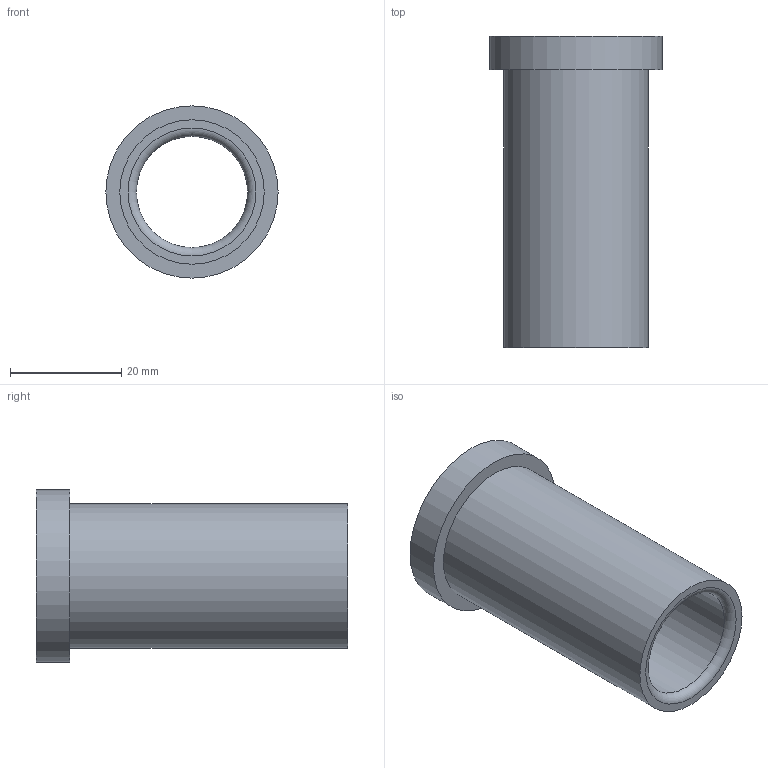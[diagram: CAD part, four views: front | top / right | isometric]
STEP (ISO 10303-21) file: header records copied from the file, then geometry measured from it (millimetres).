
FILE_DESCRIPTION(/* description */ ('STEP AP214'),/* implementation_level */ '2;1');
FILE_NAME(/* name */ '03_12_17925',/* time_stamp */ '2023-06-15T11:35:31+02:00',/* author */ ('License CC BY-ND 4.0'),/* organization */ ('CADENAS'),/* preprocessor_version */ 'ST-DEVELOPER v19.3',/* originating_system */ 'PARTsolutions',/* authorisation */ ' ');
FILE_SCHEMA (('PROCESS_PLANNING_SCHEMA','AUTOMOTIVE_DESIGN {1 0 10303 214 3 1 1}'));
Length unit declared in the file: millimetre
Products named in the file (1): VA_Bushing_17925
Bounding box: 31 x 56 x 31 mm (x, y, z)
Volume: 13204.2 mm3; surface area: 9009.2 mm2
Topology: 1 solids, 1 shells, 10 faces, 16 edges, 10 vertices
Faces by surface type: cylinder 4, plane 4, torus 2
Full cylindrical faces by diameter (mm): 20 x1, 20.6 x1, 26 x1, 31 x1
Entity records: 302 total; most frequent: DIRECTION 42, CARTESIAN_POINT 31, AXIS2_PLACEMENT_3D 21, ORIENTED_EDGE 20, EDGE_LOOP 20, FACE_BOUND 20, EDGE_CURVE 10, VERTEX_POINT 10
